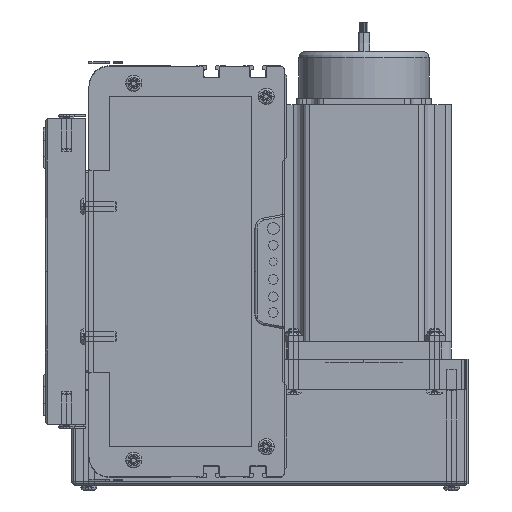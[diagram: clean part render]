
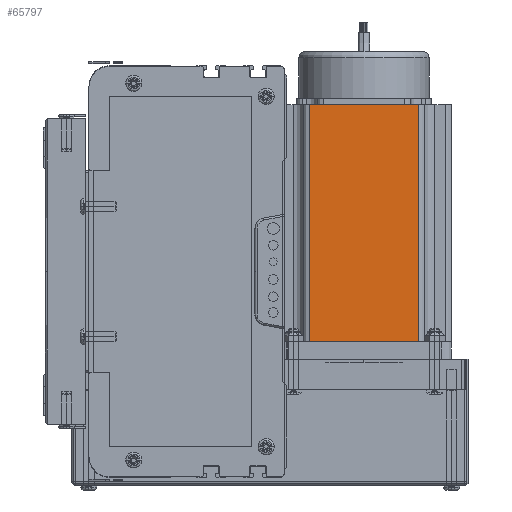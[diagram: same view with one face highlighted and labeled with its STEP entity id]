
A CAD part, left-side view. The second image highlights one B-rep face of the part: STEP entity #65797.
In plain terms, the highlighted planar face has unit normal (-1, 0, 0) as drawn and (0, -1, 0) by its records, which use the part's own axes.
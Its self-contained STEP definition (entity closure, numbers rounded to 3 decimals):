
#65366 = ORIENTED_EDGE ( 'NONE', *, *, #65807, .T. ) ;
#65370 = VERTEX_POINT ( 'NONE', #100265 ) ;
#65411 = VERTEX_POINT ( 'NONE', #100711 ) ;
#65412 = ORIENTED_EDGE ( 'NONE', *, *, #65413, .T. ) ;
#65413 = EDGE_CURVE ( 'NONE', #65411, #65628, #100699, .T. ) ;
#65628 = VERTEX_POINT ( 'NONE', #100938 ) ;
#65648 = EDGE_LOOP ( 'NONE', ( #65699, #65366, #65814, #65412 ) ) ;
#65658 = VERTEX_POINT ( 'NONE', #101120 ) ;
#65699 = ORIENTED_EDGE ( 'NONE', *, *, #65808, .T. ) ;
#65797 = ADVANCED_FACE ( 'NONE', ( #101506 ), #101514, .F. ) ;
#65800 = EDGE_CURVE ( 'NONE', #65411, #65370, #101827, .T. ) ;
#65807 = EDGE_CURVE ( 'NONE', #65658, #65370, #101509, .T. ) ;
#65808 = EDGE_CURVE ( 'NONE', #65628, #65658, #101817, .T. ) ;
#65814 = ORIENTED_EDGE ( 'NONE', *, *, #65800, .F. ) ;
#100265 = CARTESIAN_POINT ( 'NONE',  ( 69.74, 0., 116.5 ) ) ;
#100684 = DIRECTION ( 'NONE',  ( 0., 0., -1. ) ) ;
#100686 = VECTOR ( 'NONE', #100684, 1000. ) ;
#100695 = CARTESIAN_POINT ( 'NONE',  ( 16.16, 0., 116.5 ) ) ;
#100699 = LINE ( 'NONE', #100695, #100686 ) ;
#100711 = CARTESIAN_POINT ( 'NONE',  ( 16.16, 0., 116.5 ) ) ;
#100938 = CARTESIAN_POINT ( 'NONE',  ( 16.16, 0., 0. ) ) ;
#101120 = CARTESIAN_POINT ( 'NONE',  ( 69.74, 0., 0. ) ) ;
#101503 = AXIS2_PLACEMENT_3D ( 'NONE', #101835, #101834, #101833 ) ;
#101506 = FACE_OUTER_BOUND ( 'NONE', #65648, .T. ) ;
#101509 = LINE ( 'NONE', #101823, #101814 ) ;
#101514 = PLANE ( 'NONE',  #101503 ) ;
#101807 = DIRECTION ( 'NONE',  ( 1., 0., 0. ) ) ;
#101808 = VECTOR ( 'NONE', #101807, 1000. ) ;
#101809 = CARTESIAN_POINT ( 'NONE',  ( 0., 0., 0. ) ) ;
#101812 = DIRECTION ( 'NONE',  ( 0., 0., 1. ) ) ;
#101814 = VECTOR ( 'NONE', #101812, 1000. ) ;
#101817 = LINE ( 'NONE', #101809, #101808 ) ;
#101823 = CARTESIAN_POINT ( 'NONE',  ( 69.74, 0., 116.5 ) ) ;
#101824 = DIRECTION ( 'NONE',  ( 1., 0., 0. ) ) ;
#101825 = VECTOR ( 'NONE', #101824, 1000. ) ;
#101826 = CARTESIAN_POINT ( 'NONE',  ( 0., 0., 116.5 ) ) ;
#101827 = LINE ( 'NONE', #101826, #101825 ) ;
#101833 = DIRECTION ( 'NONE',  ( 0., 0., 1. ) ) ;
#101834 = DIRECTION ( 'NONE',  ( 0., 1., 0. ) ) ;
#101835 = CARTESIAN_POINT ( 'NONE',  ( 0., 0., 116.5 ) ) ;
